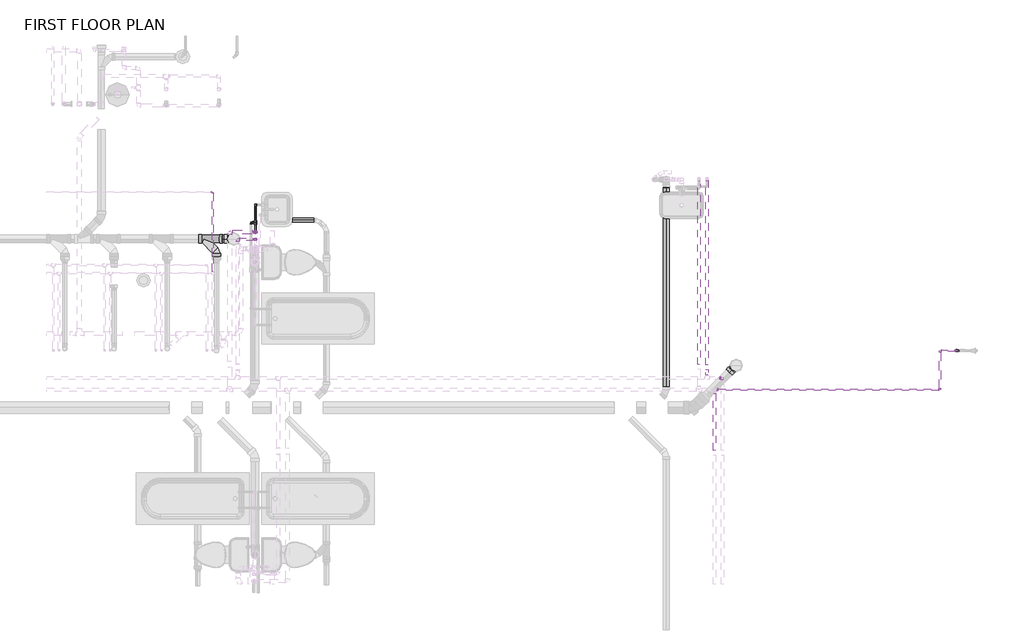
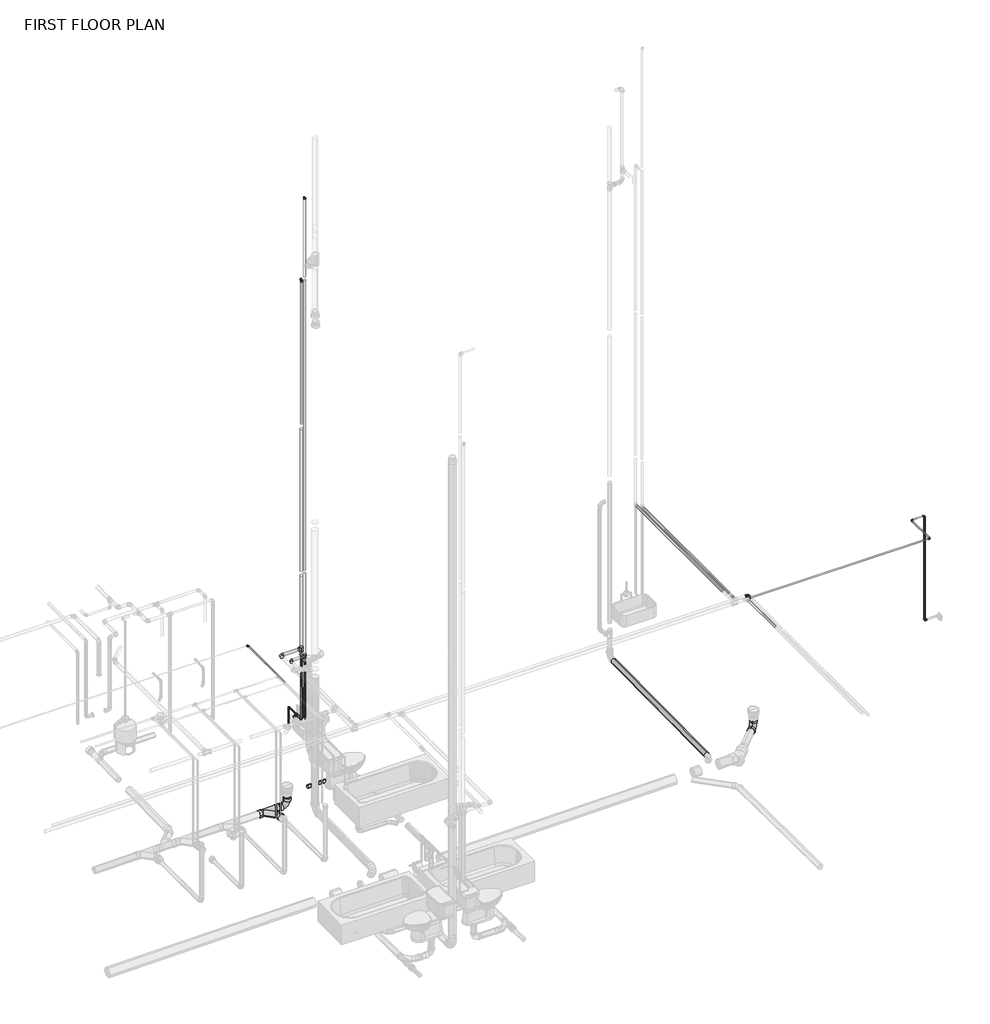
# One storey, part 27 of 29: 30 pipe fittings, 30 pipe segments.
"""IFC4 building model written with IfcOpenShell, lengths in millimetres."""

from ifc_helpers import new_model, si_unit, point, frame, frame_2d, origin, place, context, project, spatial, circle_curve, trimmed, segment, composite_curve, outline, extrude, transform, mapped, element, save
from ifc_brep_helpers import plane_surface, cylinder_surface, advanced_brep
from components import bend_pvc_sch_40_dwv_standard_f85602c0, bend_pvc_sch_40_dwv_standard_6d77aece, pipe_elbow_copper_k_557be1fc, pipe_elbow_copper_k_764eecca, pipe_elbow_copper_k_feaaf02c, pipe_elbow_copper_k_aad62f2d, pipe_elbow_copper_k_aee2f062, pipe_elbow_copper_k_a25a5501, pipe_tee_copper_k_36278b8a, pipe_tee_copper_k_7127fd44, pipe_tee_copper_k_feafe2f1, pipe_transition_copper_k_2e591508, pipe_transition_copper_k_b63fd5dd, pipe_transition_copper_k_6d118978, pipe_transition_copper_k_7e8f21d9, pipe_transition_copper_k_3e141881, pipe_transition_copper_k_f5214087, pipe_transition_copper_k_65f470c7, pipe_transition_copper_k_d17fcfb6, pipe_transition_copper_k_f5fb5327, wye_combination_with_8th_bend_pvc_sch_40_dwv_standard_19f141cc

model = new_model("IFC4")

# Units and contexts
model_context = context("Model", 3, world=origin())
ifc_project = project(units=[si_unit("LENGTHUNIT", "METRE", prefix="MILLI")], contexts=[model_context])

# Site, building, storey
site = spatial("IfcSite", under=ifc_project)
building = spatial("IfcBuilding", under=site)
storey = spatial("IfcBuildingStorey", under=building, Name="FIRST FLOOR PLAN", Elevation=0.0)

# Pipe fittings
placement = place(None, origin())
bend_pvc_sch_40_dwv_standard_shape = bend_pvc_sch_40_dwv_standard_f85602c0(model_context)
element("IfcPipeFitting", 1, ObjectType="Bend - PVC - Sch 40 - DWV : Standard", at=placement, inside=storey, context=model_context, shape_type="MappedRepresentation", body=[
    mapped(bend_pvc_sch_40_dwv_standard_shape, transform((16620.4373657, 8027.5669924, -360.3651965), x_axis=(0.0, -6.575715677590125e-08, -0.9999999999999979), y_axis=(-0.9999999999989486, -1.4502091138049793e-06, 0.0), z_axis=(-1.4502091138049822e-06, 0.9999999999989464, -6.575715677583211e-08))),
])
bend_pvc_sch_40_dwv_standard_2_shape = bend_pvc_sch_40_dwv_standard_6d77aece(model_context)
element("IfcPipeFitting", 2, ObjectType="Bend - PVC - Sch 40 - DWV : Standard", at=placement, inside=storey, context=model_context, shape_type="MappedRepresentation", body=[
    mapped(bend_pvc_sch_40_dwv_standard_2_shape, transform((24102.4347426, 6142.4691044, -312.8912358), x_axis=(0.0, 0.0, -1.0), y_axis=(-0.7071267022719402, -0.7070868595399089, 0.0), z_axis=(-0.7070868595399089, 0.7071267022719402, 0.0))),
])
pipe_elbow_copper_k_shape = pipe_elbow_copper_k_557be1fc(model_context)
element("IfcPipeFitting", 3, ObjectType="Pipe Elbow : Copper- K", at=placement, inside=storey, context=model_context, shape_type="MappedRepresentation", body=[
    mapped(pipe_elbow_copper_k_shape, transform((16682.0146104, 8021.1606631, 2413.0), x_axis=(-1.0, 0.0, 0.0), y_axis=(0.0, -1.0, 0.0), z_axis=(0.0, 0.0, 1.0))),
])
pipe_elbow_copper_k_2_shape = pipe_elbow_copper_k_764eecca(model_context)
element("IfcPipeFitting", 4, ObjectType="Pipe Elbow : Copper- K", at=placement, inside=storey, context=model_context, shape_type="MappedRepresentation", body=[
    mapped(pipe_elbow_copper_k_2_shape, transform((16562.8624243, 8129.4757881, 2490.6882812), x_axis=(-1.0, 0.0, 0.0), y_axis=(0.0, -1.0, 0.0), z_axis=(0.0, 0.0, 1.0))),
])
pipe_elbow_copper_k_3_shape = pipe_elbow_copper_k_feaaf02c(model_context)
element("IfcPipeFitting", 5, ObjectType="Pipe Elbow : Copper- K", at=placement, inside=storey, context=model_context, shape_type="MappedRepresentation", body=[
    mapped(pipe_elbow_copper_k_3_shape, transform((27136.8112434, 5778.2175381, 2490.6882812), x_axis=(1.0, 0.0, 0.0), y_axis=(0.0, 1.0, 0.0), z_axis=(0.0, 0.0, 1.0))),
])
element("IfcPipeFitting", 6, ObjectType="Pipe Elbow : Copper- K", at=placement, inside=storey, context=model_context, shape_type="MappedRepresentation", body=[
    mapped(pipe_elbow_copper_k_3_shape, transform((27373.8613427, 6363.4137881, 467.36875), x_axis=(-1.0, 0.0, 0.0), y_axis=(0.0, 0.0, 1.0), z_axis=(0.0, 1.0, 0.0))),
])
element("IfcPipeFitting", 7, ObjectType="Pipe Elbow : Copper- K", at=placement, inside=storey, context=model_context, shape_type="MappedRepresentation", body=[
    mapped(pipe_elbow_copper_k_3_shape, transform((27136.8112434, 6363.4137881, 2490.6882812), x_axis=(-1.0, 0.0, 0.0), y_axis=(0.0, -1.0, 0.0), z_axis=(0.0, 0.0, 1.0))),
])
element("IfcPipeFitting", 8, ObjectType="Pipe Elbow : Copper- K", at=placement, inside=storey, context=model_context, shape_type="MappedRepresentation", body=[
    mapped(pipe_elbow_copper_k_3_shape, transform((27373.8613427, 6363.4137881, 2490.6882812), x_axis=(0.0, 0.0, 1.0), y_axis=(-1.0, 0.0, 0.0), z_axis=(0.0, -1.0, 0.0))),
])
element("IfcPipeFitting", 9, ObjectType="Pipe Elbow : Copper- K", at=placement, inside=storey, context=model_context, shape_type="MappedRepresentation", body=[
    mapped(pipe_elbow_copper_k_3_shape, transform((16879.2084875, 8271.1092908, 1117.6), x_axis=(-1.0, 0.0, 0.0), y_axis=(0.0, -1.0, 0.0), z_axis=(0.0, 0.0, 1.0))),
])
element("IfcPipeFitting", 10, ObjectType="Pipe Elbow : Copper- K", at=placement, inside=storey, context=model_context, shape_type="MappedRepresentation", body=[
    mapped(pipe_elbow_copper_k_3_shape, transform((16942.7084875, 8021.1606631, 1219.2), x_axis=(0.0, 1.0, 0.0), y_axis=(-0.0006978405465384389, 0.0, 0.9999997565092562), z_axis=(0.9999997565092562, 0.0, 0.0006978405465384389))),
])
pipe_elbow_copper_k_4_shape = pipe_elbow_copper_k_aad62f2d(model_context)
element("IfcPipeFitting", 11, ObjectType="Pipe Elbow : Copper- K", at=placement, inside=storey, context=model_context, shape_type="MappedRepresentation", body=[
    mapped(pipe_elbow_copper_k_4_shape, transform((16941.9084875, 8021.1606631, 11328.4), x_axis=(0.0, 0.0, 1.0), y_axis=(-1.0, 0.0, 0.0), z_axis=(0.0, -1.0, 0.0))),
])
element("IfcPipeFitting", 12, ObjectType="Pipe Elbow : Copper- K", at=placement, inside=storey, context=model_context, shape_type="MappedRepresentation", body=[
    mapped(pipe_elbow_copper_k_4_shape, transform((16306.9084875, 8725.6137881, 2413.0), x_axis=(0.0, 1.0, 0.0), y_axis=(-1.0, 0.0, 0.0), z_axis=(0.0, 0.0, 1.0))),
])
element("IfcPipeFitting", 13, ObjectType="Pipe Elbow : Copper- K", at=placement, inside=storey, context=model_context, shape_type="MappedRepresentation", body=[
    mapped(pipe_elbow_copper_k_4_shape, transform((16945.8834875, 8536.03262, 762.0), x_axis=(0.0, 0.0, -1.0), y_axis=(1.0, 0.0, 0.0), z_axis=(0.0, -1.0, 0.0))),
])
element("IfcPipeFitting", 14, ObjectType="Pipe Elbow : Copper- K", at=placement, inside=storey, context=model_context, shape_type="MappedRepresentation", body=[
    mapped(pipe_elbow_copper_k_4_shape, transform((16945.8834875, 8536.03262, 1117.6), x_axis=(0.0, 0.0, 1.0), y_axis=(0.0, -1.0, 0.0), z_axis=(1.0, 0.0, 0.0))),
])
pipe_elbow_copper_k_5_shape = pipe_elbow_copper_k_aee2f062(model_context)
element("IfcPipeFitting", 15, ObjectType="Pipe Elbow : Copper- K", at=placement, inside=storey, context=model_context, shape_type="MappedRepresentation", body=[
    mapped(pipe_elbow_copper_k_5_shape, transform((23897.1913377, 5956.0175381, 2413.0), x_axis=(0.0, 1.0, 0.0), y_axis=(-1.0, 0.0, 0.0), z_axis=(0.0, 0.0, 1.0))),
])
pipe_elbow_copper_k_6_shape = pipe_elbow_copper_k_a25a5501(model_context)
element("IfcPipeFitting", 16, ObjectType="Pipe Elbow : Copper- K", at=placement, inside=storey, context=model_context, shape_type="MappedRepresentation", body=[
    mapped(pipe_elbow_copper_k_6_shape, transform((16945.8834875, 8129.4757881, 9652.0), x_axis=(0.0, 0.0, 1.0), y_axis=(0.0, 1.0, 0.0), z_axis=(-1.0, 0.0, 0.0))),
])
element("IfcPipeFitting", 17, ObjectType="Pipe Elbow : Copper- K", at=placement, inside=storey, context=model_context, shape_type="MappedRepresentation", body=[
    mapped(pipe_elbow_copper_k_6_shape, transform((16945.8834875, 8129.4757881, 1117.6), x_axis=(0.0, -1.0, 0.0), y_axis=(-0.0030203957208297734, 0.0, 0.9999954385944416), z_axis=(-0.9999954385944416, 0.0, -0.0030203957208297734))),
])
pipe_tee_copper_k_shape = pipe_tee_copper_k_36278b8a(model_context)
element("IfcPipeFitting", 18, ObjectType="Pipe Tee : Copper- K", at=placement, inside=storey, context=model_context, shape_type="MappedRepresentation", body=[
    mapped(pipe_tee_copper_k_shape, transform((16941.9084875, 8129.4757881, 2490.6882812), x_axis=(0.0, 0.0, -1.0), y_axis=(1.0, 0.0, 0.0), z_axis=(0.0, -1.0, 0.0))),
])
pipe_tee_copper_k_2_shape = pipe_tee_copper_k_7127fd44(model_context)
element("IfcPipeFitting", 19, ObjectType="Pipe Tee : Copper- K", at=placement, inside=storey, context=model_context, shape_type="MappedRepresentation", body=[
    mapped(pipe_tee_copper_k_2_shape, transform((16941.9084875, 8021.1606631, 2413.0), x_axis=(0.0, 0.0, -1.0), y_axis=(1.0, 0.0, 0.0), z_axis=(0.0, -1.0, 0.0))),
])
pipe_tee_copper_k_3_shape = pipe_tee_copper_k_feafe2f1(model_context)
element("IfcPipeFitting", 20, ObjectType="Pipe Tee : Copper- K", at=placement, inside=storey, context=model_context, shape_type="MappedRepresentation", body=[
    mapped(pipe_tee_copper_k_3_shape, transform((16945.8834875, 8271.1092908, 1117.6), x_axis=(0.0, -1.0, 0.0), y_axis=(1.0, 0.0, 0.0), z_axis=(0.0, 0.0, 1.0))),
])
pipe_transition_copper_k_shape = pipe_transition_copper_k_2e591508(model_context)
element("IfcPipeFitting", 21, ObjectType="Pipe Transition : Copper- K", at=placement, inside=storey, context=model_context, shape_type="MappedRepresentation", body=[
    mapped(pipe_transition_copper_k_shape, transform((23820.9016516, 5778.2175381, 2490.6882812), x_axis=(1.0, 0.0, 0.0), y_axis=(0.0, 1.0, 0.0), z_axis=(0.0, 0.0, 1.0))),
])
pipe_transition_copper_k_2_shape = pipe_transition_copper_k_b63fd5dd(model_context)
element("IfcPipeFitting", 22, ObjectType="Pipe Transition : Copper- K", at=placement, inside=storey, context=model_context, shape_type="MappedRepresentation", body=[
    mapped(pipe_transition_copper_k_2_shape, transform((16945.8834875, 8301.2717908, 1117.6), x_axis=(0.0, 1.0, 0.0), y_axis=(-1.0, 0.0, 0.0), z_axis=(0.0, 0.0, 1.0))),
])
pipe_transition_copper_k_3_shape = pipe_transition_copper_k_6d118978(model_context)
element("IfcPipeFitting", 23, ObjectType="Pipe Transition : Copper- K", at=placement, inside=storey, context=model_context, shape_type="MappedRepresentation", body=[
    mapped(pipe_transition_copper_k_3_shape, transform((16941.9084875, 8021.1606631, 11300.61875), x_axis=(0.0, 0.0, 1.0), y_axis=(0.0, -1.0, 0.0), z_axis=(1.0, 0.0, 0.0))),
])
pipe_transition_copper_k_4_shape = pipe_transition_copper_k_7e8f21d9(model_context)
element("IfcPipeFitting", 24, ObjectType="Pipe Transition : Copper- K", at=placement, inside=storey, context=model_context, shape_type="MappedRepresentation", body=[
    mapped(pipe_transition_copper_k_4_shape, transform((16942.6940858, 8021.1606631, 1239.837495), x_axis=(-0.0006978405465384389, 0.0, 0.9999997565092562), y_axis=(-0.9999997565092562, 0.0, -0.0006978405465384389), z_axis=(0.0, -1.0, 0.0))),
])
pipe_transition_copper_k_5_shape = pipe_transition_copper_k_3e141881(model_context)
element("IfcPipeFitting", 25, ObjectType="Pipe Transition : Copper- K", at=placement, inside=storey, context=model_context, shape_type="MappedRepresentation", body=[
    mapped(pipe_transition_copper_k_5_shape, transform((16945.8834875, 8129.4757881, 9619.45625), x_axis=(0.0, 0.0, 1.0), y_axis=(1.0, 0.0, 0.0), z_axis=(0.0, 1.0, 0.0))),
])
pipe_transition_copper_k_6_shape = pipe_transition_copper_k_f5214087(model_context)
element("IfcPipeFitting", 26, ObjectType="Pipe Transition : Copper- K", at=placement, inside=storey, context=model_context, shape_type="MappedRepresentation", body=[
    mapped(pipe_transition_copper_k_6_shape, transform((16899.8459875, 8271.1092908, 1117.6), x_axis=(1.0, 0.0, 0.0), y_axis=(0.0, 1.0, 0.0), z_axis=(0.0, 0.0, 1.0))),
])
pipe_transition_copper_k_7_shape = pipe_transition_copper_k_65f470c7(model_context)
element("IfcPipeFitting", 27, ObjectType="Pipe Transition : Copper- K", at=placement, inside=storey, context=model_context, shape_type="MappedRepresentation", body=[
    mapped(pipe_transition_copper_k_7_shape, transform((16941.950737, 8021.1606631, 2305.0501626), x_axis=(-0.0006978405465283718, 0.0, 0.9999997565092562), y_axis=(-0.9999997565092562, 0.0, -0.0006978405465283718), z_axis=(0.0, -1.0, 0.0))),
])
pipe_transition_copper_k_8_shape = pipe_transition_copper_k_d17fcfb6(model_context)
element("IfcPipeFitting", 28, ObjectType="Pipe Transition : Copper- K", at=placement, inside=storey, context=model_context, shape_type="MappedRepresentation", body=[
    mapped(pipe_transition_copper_k_8_shape, transform((16942.1006108, 8129.4757881, 2370.0383422), x_axis=(-0.0030203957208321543, 0.0, 0.9999954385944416), y_axis=(0.9999954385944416, 0.0, 0.0030203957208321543), z_axis=(0.0, 1.0, 0.0))),
])
pipe_transition_copper_k_9_shape = pipe_transition_copper_k_f5fb5327(model_context)
element("IfcPipeFitting", 29, ObjectType="Pipe Transition : Copper- K", at=placement, inside=storey, context=model_context, shape_type="MappedRepresentation", body=[
    mapped(pipe_transition_copper_k_9_shape, transform((23859.8850877, 5956.0175381, 2413.0), x_axis=(1.0, 0.0, 0.0), y_axis=(0.0, 1.0, 0.0), z_axis=(0.0, 0.0, 1.0))),
])
wye_combination_with_8th_bend_pvc_sch_40_dwv_standard_shape = wye_combination_with_8th_bend_pvc_sch_40_dwv_standard_19f141cc(model_context)
element("IfcPipeFitting", 30, ObjectType="Wye Combination with 8th Bend - PVC - Sch 40 - DWV : Standard", at=placement, inside=storey, context=model_context, shape_type="MappedRepresentation", body=[
    mapped(wye_combination_with_8th_bend_pvc_sch_40_dwv_standard_shape, transform((16365.3702331, 8027.5666223, -363.0221458), x_axis=(0.9999457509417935, 1.4508153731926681e-06, 0.01041610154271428), y_axis=(4.865045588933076e-06, 0.9999998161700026, -0.0006063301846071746), z_axis=(-0.010416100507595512, 0.0006063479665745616, 0.99994556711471))),
])

# Pipe segments
element("IfcPipeSegment", 31, ObjectType="Copper", at=placement, inside=storey, context=model_context, shape_type="SweptSolid", body=[
    extrude(outline(composite_curve([segment(trimmed(circle_curve(frame_2d((8021.1606631, 2413.0)), 20.6375), [point((8000.5231631, 2413.0))], [point((8021.1606631, 2433.6375))], False, "CARTESIAN"), True, "CONTINUOUS"), segment(trimmed(circle_curve(frame_2d((8021.1606631, 2413.0)), 20.6375), [point((8021.1606631, 2433.6375))], [point((8041.7981631, 2413.0))], False, "CARTESIAN"), True, "CONTINUOUS"), segment(trimmed(circle_curve(frame_2d((8021.1606631, 2413.0)), 20.6375), [point((8041.7981631, 2413.0))], [point((8021.1606631, 2392.3625))], False, "CARTESIAN"), True, "CONTINUOUS"), segment(trimmed(circle_curve(frame_2d((8021.1606631, 2413.0)), 20.6375), [point((8021.1606631, 2392.3625))], [point((8000.5231631, 2413.0))], False, "CARTESIAN"), True, "CONTINUOUS")], self_intersect=False)), frame((16712.1771104, 0.0, 0.0), z_axis=(1.0, 0.0, 0.0), x_axis=(0.0, 1.0, 0.0)), (0.0, 0.0, 1.0), 193.218877),
])
element("IfcPipeSegment", 32, ObjectType="Copper", at=placement, inside=storey, context=model_context, shape_type="SweptSolid", body=[
    extrude(outline(composite_curve([segment(trimmed(circle_curve(frame_2d((8129.4757881, 2490.6882812)), 26.9875), [point((8102.4882881, 2490.6882812))], [point((8129.4757881, 2517.6757812))], False, "CARTESIAN"), True, "CONTINUOUS"), segment(trimmed(circle_curve(frame_2d((8129.4757881, 2490.6882812)), 26.9875), [point((8129.4757881, 2517.6757812))], [point((8156.4632881, 2490.6882812))], False, "CARTESIAN"), True, "CONTINUOUS"), segment(trimmed(circle_curve(frame_2d((8129.4757881, 2490.6882812)), 26.9875), [point((8156.4632881, 2490.6882812))], [point((8129.4757881, 2463.7007812))], False, "CARTESIAN"), True, "CONTINUOUS"), segment(trimmed(circle_curve(frame_2d((8129.4757881, 2490.6882812)), 26.9875), [point((8129.4757881, 2463.7007812))], [point((8102.4882881, 2490.6882812))], False, "CARTESIAN"), True, "CONTINUOUS")], self_intersect=False)), frame((16599.3749243, 0.0, 0.0), z_axis=(1.0, 0.0, 0.0), x_axis=(0.0, 1.0, 0.0)), (0.0, 0.0, 1.0), 299.6710632),
])
element("IfcPipeSegment", 33, ObjectType="Copper", at=placement, inside=storey, context=model_context, shape_type="SweptSolid", body=[
    extrude(outline(composite_curve([segment(trimmed(circle_curve(frame_2d((16941.9084875, 8021.1606631)), 20.6375), [point((16921.2709875, 8021.1606631))], [point((16941.9084875, 8041.7981631))], False, "CARTESIAN"), True, "CONTINUOUS"), segment(trimmed(circle_curve(frame_2d((16941.9084875, 8021.1606631)), 20.6375), [point((16941.9084875, 8041.7981631))], [point((16962.5459875, 8021.1606631))], False, "CARTESIAN"), True, "CONTINUOUS"), segment(trimmed(circle_curve(frame_2d((16941.9084875, 8021.1606631)), 20.6375), [point((16962.5459875, 8021.1606631))], [point((16941.9084875, 8000.5231631))], False, "CARTESIAN"), True, "CONTINUOUS"), segment(trimmed(circle_curve(frame_2d((16941.9084875, 8021.1606631)), 20.6375), [point((16941.9084875, 8000.5231631))], [point((16921.2709875, 8021.1606631))], False, "CARTESIAN"), True, "CONTINUOUS")], self_intersect=False)), frame((0.0, 0.0, 9790.1125), z_axis=(0.0, 0.0, 1.0), x_axis=(1.0, 0.0, 0.0)), (0.0, 0.0, 1.0), 1510.50625),
])
element("IfcPipeSegment", 34, ObjectType="Copper", at=placement, inside=storey, context=model_context, shape_type="SweptSolid", body=[
    extrude(outline(composite_curve([segment(trimmed(circle_curve(frame_2d((5778.2175381, 2490.6882812)), 11.1125), [point((5767.1050381, 2490.6882812))], [point((5778.2175381, 2501.8007812))], False, "CARTESIAN"), True, "CONTINUOUS"), segment(trimmed(circle_curve(frame_2d((5778.2175381, 2490.6882812)), 11.1125), [point((5778.2175381, 2501.8007812))], [point((5789.3300381, 2490.6882812))], False, "CARTESIAN"), True, "CONTINUOUS"), segment(trimmed(circle_curve(frame_2d((5778.2175381, 2490.6882812)), 11.1125), [point((5789.3300381, 2490.6882812))], [point((5778.2175381, 2479.5757812))], False, "CARTESIAN"), True, "CONTINUOUS"), segment(trimmed(circle_curve(frame_2d((5778.2175381, 2490.6882812)), 11.1125), [point((5778.2175381, 2479.5757812))], [point((5767.1050381, 2490.6882812))], False, "CARTESIAN"), True, "CONTINUOUS")], self_intersect=False)), frame((23834.3954016, 0.0, 0.0), z_axis=(1.0, 0.0, 0.0), x_axis=(0.0, 1.0, 0.0)), (0.0, 0.0, 1.0), 3281.7783418),
])
element("IfcPipeSegment", 35, ObjectType="Copper", at=placement, inside=storey, context=model_context, shape_type="SweptSolid", body=[
    extrude(outline(composite_curve([segment(trimmed(circle_curve(frame_2d((2490.6882812, 27136.8112434)), 11.1125), [point((2490.6882812, 27147.9237434))], [point((2501.8007812, 27136.8112434))], False, "CARTESIAN"), True, "CONTINUOUS"), segment(trimmed(circle_curve(frame_2d((2490.6882812, 27136.8112434)), 11.1125), [point((2501.8007812, 27136.8112434))], [point((2490.6882812, 27125.6987434))], False, "CARTESIAN"), True, "CONTINUOUS"), segment(trimmed(circle_curve(frame_2d((2490.6882812, 27136.8112434)), 11.1125), [point((2490.6882812, 27125.6987434))], [point((2479.5757812, 27136.8112434))], False, "CARTESIAN"), True, "CONTINUOUS"), segment(trimmed(circle_curve(frame_2d((2490.6882812, 27136.8112434)), 11.1125), [point((2479.5757812, 27136.8112434))], [point((2490.6882812, 27147.9237434))], False, "CARTESIAN"), True, "CONTINUOUS")], self_intersect=False)), frame((0.0, 5798.8550381, 0.0), z_axis=(0.0, 1.0, 0.0), x_axis=(0.0, 0.0, 1.0)), (0.0, 0.0, 1.0), 543.92125),
])
element("IfcPipeSegment", 36, ObjectType="Copper", at=placement, inside=storey, context=model_context, shape_type="SweptSolid", body=[
    extrude(outline(composite_curve([segment(trimmed(circle_curve(frame_2d((6363.4137881, 2490.6882812)), 11.1125), [point((6352.3012881, 2490.6882812))], [point((6363.4137881, 2501.8007812))], False, "CARTESIAN"), True, "CONTINUOUS"), segment(trimmed(circle_curve(frame_2d((6363.4137881, 2490.6882812)), 11.1125), [point((6363.4137881, 2501.8007812))], [point((6374.5262881, 2490.6882812))], False, "CARTESIAN"), True, "CONTINUOUS"), segment(trimmed(circle_curve(frame_2d((6363.4137881, 2490.6882812)), 11.1125), [point((6374.5262881, 2490.6882812))], [point((6363.4137881, 2479.5757812))], False, "CARTESIAN"), True, "CONTINUOUS"), segment(trimmed(circle_curve(frame_2d((6363.4137881, 2490.6882812)), 11.1125), [point((6363.4137881, 2479.5757812))], [point((6352.3012881, 2490.6882812))], False, "CARTESIAN"), True, "CONTINUOUS")], self_intersect=False)), frame((27157.4487434, 0.0, 0.0), z_axis=(1.0, 0.0, 0.0), x_axis=(0.0, 1.0, 0.0)), (0.0, 0.0, 1.0), 195.7750993),
])
element("IfcPipeSegment", 37, ObjectType="Copper", at=placement, inside=storey, context=model_context, shape_type="SweptSolid", body=[
    extrude(outline(composite_curve([segment(trimmed(circle_curve(frame_2d((6363.4137881, 467.36875)), 11.1125), [point((6374.5262881, 467.36875))], [point((6363.4137881, 456.25625))], False, "CARTESIAN"), True, "CONTINUOUS"), segment(trimmed(circle_curve(frame_2d((6363.4137881, 467.36875)), 11.1125), [point((6363.4137881, 456.25625))], [point((6352.3012881, 467.36875))], False, "CARTESIAN"), True, "CONTINUOUS"), segment(trimmed(circle_curve(frame_2d((6363.4137881, 467.36875)), 11.1125), [point((6352.3012881, 467.36875))], [point((6363.4137881, 478.48125))], False, "CARTESIAN"), True, "CONTINUOUS"), segment(trimmed(circle_curve(frame_2d((6363.4137881, 467.36875)), 11.1125), [point((6363.4137881, 478.48125))], [point((6374.5262881, 467.36875))], False, "CARTESIAN"), True, "CONTINUOUS")], self_intersect=False)), frame((27394.4988427, 0.0, 0.0), z_axis=(1.0, 0.0, 0.0), x_axis=(0.0, 1.0, 0.0)), (0.0, 0.0, 1.0), 25.3998882),
])
element("IfcPipeSegment", 38, ObjectType="Copper", at=placement, inside=storey, context=model_context, shape_type="SweptSolid", body=[
    extrude(outline(composite_curve([segment(trimmed(circle_curve(frame_2d((27373.8613427, 6363.4137881)), 11.1125), [point((27362.7488427, 6363.4137881))], [point((27373.8613427, 6374.5262881))], False, "CARTESIAN"), True, "CONTINUOUS"), segment(trimmed(circle_curve(frame_2d((27373.8613427, 6363.4137881)), 11.1125), [point((27373.8613427, 6374.5262881))], [point((27384.9738427, 6363.4137881))], False, "CARTESIAN"), True, "CONTINUOUS"), segment(trimmed(circle_curve(frame_2d((27373.8613427, 6363.4137881)), 11.1125), [point((27384.9738427, 6363.4137881))], [point((27373.8613427, 6352.3012881))], False, "CARTESIAN"), True, "CONTINUOUS"), segment(trimmed(circle_curve(frame_2d((27373.8613427, 6363.4137881)), 11.1125), [point((27373.8613427, 6352.3012881))], [point((27362.7488427, 6363.4137881))], False, "CARTESIAN"), True, "CONTINUOUS")], self_intersect=False)), frame((0.0, 0.0, 488.00625), z_axis=(0.0, 0.0, 1.0), x_axis=(1.0, 0.0, 0.0)), (0.0, 0.0, 1.0), 1982.0445312),
])
element("IfcPipeSegment", 39, ObjectType="Copper", at=placement, inside=storey, context=model_context, shape_type="SweptSolid", body=[
    extrude(outline(composite_curve([segment(trimmed(circle_curve(frame_2d((2413.0, 16306.9084875)), 7.9375), [point((2413.0, 16298.9709875))], [point((2405.0625, 16306.9084875))], False, "CARTESIAN"), True, "CONTINUOUS"), segment(trimmed(circle_curve(frame_2d((2413.0, 16306.9084875)), 7.9375), [point((2405.0625, 16306.9084875))], [point((2413.0, 16314.8459875))], False, "CARTESIAN"), True, "CONTINUOUS"), segment(trimmed(circle_curve(frame_2d((2413.0, 16306.9084875)), 7.9375), [point((2413.0, 16314.8459875))], [point((2420.9375, 16306.9084875))], False, "CARTESIAN"), True, "CONTINUOUS"), segment(trimmed(circle_curve(frame_2d((2413.0, 16306.9084875)), 7.9375), [point((2420.9375, 16306.9084875))], [point((2413.0, 16298.9709875))], False, "CARTESIAN"), True, "CONTINUOUS")], self_intersect=False)), frame((0.0, 7542.9624538, 0.0), z_axis=(0.0, 1.0, 0.0), x_axis=(0.0, 0.0, 1.0)), (0.0, 0.0, 1.0), 1165.1888342),
])
element("IfcPipeSegment", 40, ObjectType="Copper", at=placement, inside=storey, context=model_context, shape_type="SweptSolid", body=[
    extrude(outline(composite_curve([segment(trimmed(circle_curve(frame_2d((16945.8834875, 8129.4757881)), 17.4625), [point((16928.4209875, 8129.4757881))], [point((16945.8834875, 8146.9382881))], False, "CARTESIAN"), True, "CONTINUOUS"), segment(trimmed(circle_curve(frame_2d((16945.8834875, 8129.4757881)), 17.4625), [point((16945.8834875, 8146.9382881))], [point((16963.3459875, 8129.4757881))], False, "CARTESIAN"), True, "CONTINUOUS"), segment(trimmed(circle_curve(frame_2d((16945.8834875, 8129.4757881)), 17.4625), [point((16963.3459875, 8129.4757881))], [point((16945.8834875, 8112.0132881))], False, "CARTESIAN"), True, "CONTINUOUS"), segment(trimmed(circle_curve(frame_2d((16945.8834875, 8129.4757881)), 17.4625), [point((16945.8834875, 8112.0132881))], [point((16928.4209875, 8129.4757881))], False, "CARTESIAN"), True, "CONTINUOUS")], self_intersect=False)), frame((0.0, 0.0, 6863.55625), z_axis=(0.0, 0.0, 1.0), x_axis=(1.0, 0.0, 0.0)), (0.0, 0.0, 1.0), 2755.9),
])
element("IfcPipeSegment", 41, ObjectType="Copper", at=placement, inside=storey, context=model_context, shape_type="SweptSolid", body=[
    extrude(outline(composite_curve([segment(trimmed(circle_curve(frame_2d((1117.6, 16945.8834875)), 7.9375), [point((1117.6, 16953.8209875))], [point((1125.5375, 16945.8834875))], False, "CARTESIAN"), True, "CONTINUOUS"), segment(trimmed(circle_curve(frame_2d((1117.6, 16945.8834875)), 7.9375), [point((1125.5375, 16945.8834875))], [point((1117.6, 16937.9459875))], False, "CARTESIAN"), True, "CONTINUOUS"), segment(trimmed(circle_curve(frame_2d((1117.6, 16945.8834875)), 7.9375), [point((1117.6, 16937.9459875))], [point((1109.6625, 16945.8834875))], False, "CARTESIAN"), True, "CONTINUOUS"), segment(trimmed(circle_curve(frame_2d((1117.6, 16945.8834875)), 7.9375), [point((1109.6625, 16945.8834875))], [point((1117.6, 16953.8209875))], False, "CARTESIAN"), True, "CONTINUOUS")], self_intersect=False)), frame((0.0, 8308.4155408, 0.0), z_axis=(0.0, 1.0, 0.0), x_axis=(0.0, 0.0, 1.0)), (0.0, 0.0, 1.0), 210.1545792),
])
element("IfcPipeSegment", 42, ObjectType="Copper", at=placement, inside=storey, context=model_context, shape_type="SweptSolid", body=[
    extrude(outline(composite_curve([segment(trimmed(circle_curve(frame_2d((16945.8834875, 8536.03262)), 7.9375), [point((16953.8209875, 8536.03262))], [point((16945.8834875, 8528.09512))], False, "CARTESIAN"), True, "CONTINUOUS"), segment(trimmed(circle_curve(frame_2d((16945.8834875, 8536.03262)), 7.9375), [point((16945.8834875, 8528.09512))], [point((16937.9459875, 8536.03262))], False, "CARTESIAN"), True, "CONTINUOUS"), segment(trimmed(circle_curve(frame_2d((16945.8834875, 8536.03262)), 7.9375), [point((16937.9459875, 8536.03262))], [point((16945.8834875, 8543.97012))], False, "CARTESIAN"), True, "CONTINUOUS"), segment(trimmed(circle_curve(frame_2d((16945.8834875, 8536.03262)), 7.9375), [point((16945.8834875, 8543.97012))], [point((16953.8209875, 8536.03262))], False, "CARTESIAN"), True, "CONTINUOUS")], self_intersect=False)), frame((0.0, 0.0, 779.4625), z_axis=(0.0, 0.0, 1.0), x_axis=(1.0, 0.0, 0.0)), (0.0, 0.0, 1.0), 320.675),
])
element("IfcPipeSegment", 43, ObjectType="Copper", at=placement, inside=storey, context=model_context, shape_type="SweptSolid", body=[
    extrude(outline(composite_curve([segment(trimmed(circle_curve(frame_2d((8271.1092908, 1117.6)), 14.2875), [point((8285.3967908, 1117.6))], [point((8271.1092908, 1103.3125))], False, "CARTESIAN"), True, "CONTINUOUS"), segment(trimmed(circle_curve(frame_2d((8271.1092908, 1117.6)), 14.2875), [point((8271.1092908, 1103.3125))], [point((8256.8217908, 1117.6))], False, "CARTESIAN"), True, "CONTINUOUS"), segment(trimmed(circle_curve(frame_2d((8271.1092908, 1117.6)), 14.2875), [point((8256.8217908, 1117.6))], [point((8271.1092908, 1131.8875))], False, "CARTESIAN"), True, "CONTINUOUS"), segment(trimmed(circle_curve(frame_2d((8271.1092908, 1117.6)), 14.2875), [point((8271.1092908, 1131.8875))], [point((8285.3967908, 1117.6))], False, "CARTESIAN"), True, "CONTINUOUS")], self_intersect=False)), frame((16903.4178625, 0.0, 0.0), z_axis=(1.0, 0.0, 0.0), x_axis=(0.0, 1.0, 0.0)), (0.0, 0.0, 1.0), 12.303125),
])
element("IfcPipeSegment", 44, ObjectType="Copper", at=placement, inside=storey, context=model_context, shape_type="SweptSolid", body=[
    extrude(outline(composite_curve([segment(trimmed(circle_curve(frame_2d((1117.6, 16945.8834875)), 14.2875), [point((1117.6, 16931.5959875))], [point((1103.3125, 16945.8834875))], False, "CARTESIAN"), True, "CONTINUOUS"), segment(trimmed(circle_curve(frame_2d((1117.6, 16945.8834875)), 14.2875), [point((1103.3125, 16945.8834875))], [point((1117.6, 16960.1709875))], False, "CARTESIAN"), True, "CONTINUOUS"), segment(trimmed(circle_curve(frame_2d((1117.6, 16945.8834875)), 14.2875), [point((1117.6, 16960.1709875))], [point((1131.8875, 16945.8834875))], False, "CARTESIAN"), True, "CONTINUOUS"), segment(trimmed(circle_curve(frame_2d((1117.6, 16945.8834875)), 14.2875), [point((1131.8875, 16945.8834875))], [point((1117.6, 16931.5959875))], False, "CARTESIAN"), True, "CONTINUOUS")], self_intersect=False)), frame((0.0, 8153.2882881, 0.0), z_axis=(0.0, 1.0, 0.0), x_axis=(0.0, 0.0, 1.0)), (0.0, 0.0, 1.0), 87.6585027),
])
element("IfcPipeSegment", 45, ObjectType="Copper", at=placement, inside=storey, context=model_context, shape_type="SweptSolid", body=[
    extrude(outline(composite_curve([segment(trimmed(circle_curve(frame_2d((0.0, 14.2875)), 14.2875), [point((-14.2875, 14.2875))], [point((0.0, 28.575))], False, "CARTESIAN"), True, "CONTINUOUS"), segment(trimmed(circle_curve(frame_2d((0.0, 14.2875)), 14.2875), [point((0.0, 28.575))], [point((14.2875, 14.2875))], False, "CARTESIAN"), True, "CONTINUOUS"), segment(trimmed(circle_curve(frame_2d((0.0, 14.2875)), 14.2875), [point((14.2875, 14.2875))], [point((0.0, 0.0))], False, "CARTESIAN"), True, "CONTINUOUS"), segment(trimmed(circle_curve(frame_2d((0.0, 14.2875)), 14.2875), [point((0.0, 0.0))], [point((-14.2875, 14.2875))], False, "CARTESIAN"), True, "CONTINUOUS")], self_intersect=False)), frame((16942.6915932, 8006.8731631, 1243.4093691), z_axis=(-0.0006978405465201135, 0.0, 0.9999997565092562), x_axis=(0.9999997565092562, 0.0, 0.0006978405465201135)), (0.0, 0.0, 1.0), 1061.641052),
])
element("IfcPipeSegment", 46, ObjectType="Copper", at=placement, inside=storey, context=model_context, shape_type="SweptSolid", body=[
    extrude(outline(composite_curve([segment(trimmed(circle_curve(frame_2d((0.0, 14.2875)), 14.2875), [point((0.0, 28.575))], [point((14.2875, 14.2875))], False, "CARTESIAN"), True, "CONTINUOUS"), segment(trimmed(circle_curve(frame_2d((0.0, 14.2875)), 14.2875), [point((14.2875, 14.2875))], [point((0.0, 0.0))], False, "CARTESIAN"), True, "CONTINUOUS"), segment(trimmed(circle_curve(frame_2d((0.0, 14.2875)), 14.2875), [point((0.0, 0.0))], [point((-14.2875, 14.2875))], False, "CARTESIAN"), True, "CONTINUOUS"), segment(trimmed(circle_curve(frame_2d((0.0, 14.2875)), 14.2875), [point((-14.2875, 14.2875))], [point((0.0, 28.575))], False, "CARTESIAN"), True, "CONTINUOUS")], self_intersect=False)), frame((16945.8115643, 8115.1882881, 1141.4123914), z_axis=(-0.0030203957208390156, 0.0, 0.9999954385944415), x_axis=(0.9999954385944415, 0.0, 0.0030203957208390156)), (0.0, 0.0, 1.0), 1228.6315551),
])
element("IfcPipeSegment", 47, ObjectType="Copper", at=placement, inside=storey, context=model_context, shape_type="SweptSolid", body=[
    extrude(outline(composite_curve([segment(trimmed(circle_curve(frame_2d((0.0, -20.6375)), 20.6375), [point((-20.6375, -20.6375))], [point((0.0, 0.0))], False, "CARTESIAN"), True, "CONTINUOUS"), segment(trimmed(circle_curve(frame_2d((0.0, -20.6375)), 20.6375), [point((0.0, 0.0))], [point((20.6374999, -20.6375))], False, "CARTESIAN"), True, "CONTINUOUS"), segment(trimmed(circle_curve(frame_2d((0.0, -20.6375)), 20.6375), [point((20.6374999, -20.6375))], [point((0.0, -41.275))], False, "CARTESIAN"), True, "CONTINUOUS"), segment(trimmed(circle_curve(frame_2d((0.0, -20.6375)), 20.6375), [point((0.0, -41.275))], [point((-20.6375, -20.6375))], False, "CARTESIAN"), True, "CONTINUOUS")], self_intersect=False)), frame((16941.904887, 8000.5231631, 2310.2095068), z_axis=(5.4323024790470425e-05, 0.0, 0.9999999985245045), x_axis=(-0.9999999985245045, 0.0, 5.4323024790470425e-05)), (0.0, 0.0, 1.0), 66.2779933),
])
element("IfcPipeSegment", 48, ObjectType="Copper", at=placement, inside=storey, context=model_context, shape_type="SweptSolid", body=[
    extrude(outline(composite_curve([segment(trimmed(circle_curve(frame_2d((0.0, -26.9875)), 26.9875), [point((-26.9875, -26.9875))], [point((0.0, 0.0))], False, "CARTESIAN"), True, "CONTINUOUS"), segment(trimmed(circle_curve(frame_2d((0.0, -26.9875)), 26.9875), [point((0.0, 0.0))], [point((26.9875, -26.9875))], False, "CARTESIAN"), True, "CONTINUOUS"), segment(trimmed(circle_curve(frame_2d((0.0, -26.9875)), 26.9875), [point((26.9875, -26.9875))], [point((0.0, -53.975))], False, "CARTESIAN"), True, "CONTINUOUS"), segment(trimmed(circle_curve(frame_2d((0.0, -26.9875)), 26.9875), [point((0.0, -53.975))], [point((-26.9875, -26.9875))], False, "CARTESIAN"), True, "CONTINUOUS")], self_intersect=False)), frame((16941.8881092, 8102.4882881, 2376.7846061), z_axis=(0.0002868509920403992, 0.0, 0.9999999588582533), x_axis=(-0.9999999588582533, 0.0, 0.0002868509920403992)), (0.0, 0.0, 1.0), 71.041178),
])
element("IfcPipeSegment", 49, ObjectType="Copper", at=placement, inside=storey, context=model_context, shape_type="SweptSolid", body=[
    extrude(outline(composite_curve([segment(trimmed(circle_curve(frame_2d((16941.9084875, 8021.1606631)), 20.6375), [point((16921.2709875, 8021.1606631))], [point((16941.9084875, 8041.7981631))], False, "CARTESIAN"), True, "CONTINUOUS"), segment(trimmed(circle_curve(frame_2d((16941.9084875, 8021.1606631)), 20.6375), [point((16941.9084875, 8041.7981631))], [point((16962.5459875, 8021.1606631))], False, "CARTESIAN"), True, "CONTINUOUS"), segment(trimmed(circle_curve(frame_2d((16941.9084875, 8021.1606631)), 20.6375), [point((16962.5459875, 8021.1606631))], [point((16941.9084875, 8000.5231631))], False, "CARTESIAN"), True, "CONTINUOUS"), segment(trimmed(circle_curve(frame_2d((16941.9084875, 8021.1606631)), 20.6375), [point((16941.9084875, 8000.5231631))], [point((16921.2709875, 8021.1606631))], False, "CARTESIAN"), True, "CONTINUOUS")], self_intersect=False)), frame((0.0, 0.0, 2449.5125), z_axis=(0.0, 0.0, 1.0), x_axis=(1.0, 0.0, 0.0)), (0.0, 0.0, 1.0), 1577.975),
])
element("IfcPipeSegment", 50, ObjectType="Copper", at=placement, inside=storey, context=model_context, shape_type="SweptSolid", body=[
    extrude(outline(composite_curve([segment(trimmed(circle_curve(frame_2d((16945.8834875, 8129.4757881)), 26.9875), [point((16972.8709875, 8129.4757881))], [point((16945.8834875, 8102.4882881))], False, "CARTESIAN"), True, "CONTINUOUS"), segment(trimmed(circle_curve(frame_2d((16945.8834875, 8129.4757881)), 26.9875), [point((16945.8834875, 8102.4882881))], [point((16918.8959875, 8129.4757881))], False, "CARTESIAN"), True, "CONTINUOUS"), segment(trimmed(circle_curve(frame_2d((16945.8834875, 8129.4757881)), 26.9875), [point((16918.8959875, 8129.4757881))], [point((16945.8834875, 8156.4632881))], False, "CARTESIAN"), True, "CONTINUOUS"), segment(trimmed(circle_curve(frame_2d((16945.8834875, 8129.4757881)), 26.9875), [point((16945.8834875, 8156.4632881))], [point((16972.8709875, 8129.4757881))], False, "CARTESIAN"), True, "CONTINUOUS")], self_intersect=False)), frame((0.0, 0.0, 2533.5507812), z_axis=(0.0, 0.0, 1.0), x_axis=(1.0, 0.0, 0.0)), (0.0, 0.0, 1.0), 1385.9867188),
])
element("IfcPipeSegment", 51, ObjectType="Copper", at=placement, inside=storey, context=model_context, shape_type="SweptSolid", body=[
    extrude(outline(composite_curve([segment(trimmed(circle_curve(frame_2d((16945.8834875, 8129.4757881)), 26.9875), [point((16972.8709875, 8129.4757881))], [point((16945.8834875, 8102.4882881))], False, "CARTESIAN"), True, "CONTINUOUS"), segment(trimmed(circle_curve(frame_2d((16945.8834875, 8129.4757881)), 26.9875), [point((16945.8834875, 8102.4882881))], [point((16918.8959875, 8129.4757881))], False, "CARTESIAN"), True, "CONTINUOUS"), segment(trimmed(circle_curve(frame_2d((16945.8834875, 8129.4757881)), 26.9875), [point((16918.8959875, 8129.4757881))], [point((16945.8834875, 8156.4632881))], False, "CARTESIAN"), True, "CONTINUOUS"), segment(trimmed(circle_curve(frame_2d((16945.8834875, 8129.4757881)), 26.9875), [point((16945.8834875, 8156.4632881))], [point((16972.8709875, 8129.4757881))], False, "CARTESIAN"), True, "CONTINUOUS")], self_intersect=False)), frame((0.0, 0.0, 4005.2625), z_axis=(0.0, 0.0, 1.0), x_axis=(1.0, 0.0, 0.0)), (0.0, 0.0, 1.0), 2759.075),
])
element("IfcPipeSegment", 52, ObjectType="Copper", at=placement, inside=storey, context=model_context, shape_type="SweptSolid", body=[
    extrude(outline(composite_curve([segment(trimmed(circle_curve(frame_2d((16941.9084875, 8021.1606631)), 20.6375), [point((16921.2709875, 8021.1606631))], [point((16941.9084875, 8041.7981631))], False, "CARTESIAN"), True, "CONTINUOUS"), segment(trimmed(circle_curve(frame_2d((16941.9084875, 8021.1606631)), 20.6375), [point((16941.9084875, 8041.7981631))], [point((16962.5459875, 8021.1606631))], False, "CARTESIAN"), True, "CONTINUOUS"), segment(trimmed(circle_curve(frame_2d((16941.9084875, 8021.1606631)), 20.6375), [point((16962.5459875, 8021.1606631))], [point((16941.9084875, 8000.5231631))], False, "CARTESIAN"), True, "CONTINUOUS"), segment(trimmed(circle_curve(frame_2d((16941.9084875, 8021.1606631)), 20.6375), [point((16941.9084875, 8000.5231631))], [point((16921.2709875, 8021.1606631))], False, "CARTESIAN"), True, "CONTINUOUS")], self_intersect=False)), frame((0.0, 0.0, 4100.5125), z_axis=(0.0, 0.0, 1.0), x_axis=(1.0, 0.0, 0.0)), (0.0, 0.0, 1.0), 5616.575),
])
element("IfcPipeSegment", 53, ObjectType="Copper", at=placement, inside=storey, context=model_context, shape_type="SweptSolid", body=[
    extrude(outline(composite_curve([segment(trimmed(circle_curve(frame_2d((2413.0, 23669.3410297)), 17.4625), [point((2413.0, 23686.8035297))], [point((2430.4625, 23669.3410297))], False, "CARTESIAN"), True, "CONTINUOUS"), segment(trimmed(circle_curve(frame_2d((2413.0, 23669.3410297)), 17.4625), [point((2430.4625, 23669.3410297))], [point((2413.0, 23651.8785297))], False, "CARTESIAN"), True, "CONTINUOUS"), segment(trimmed(circle_curve(frame_2d((2413.0, 23669.3410297)), 17.4625), [point((2413.0, 23651.8785297))], [point((2395.5375, 23669.3410297))], False, "CARTESIAN"), True, "CONTINUOUS"), segment(trimmed(circle_curve(frame_2d((2413.0, 23669.3410297)), 17.4625), [point((2395.5375, 23669.3410297))], [point((2413.0, 23686.8035297))], False, "CARTESIAN"), True, "CONTINUOUS")], self_intersect=False)), frame((0.0, 6146.5281763, 0.0), z_axis=(0.0, 1.0, 0.0), x_axis=(0.0, 0.0, 1.0)), (0.0, 0.0, 1.0), 2747.9518618),
])
element("IfcPipeSegment", 54, ObjectType="Copper", at=placement, inside=storey, context=model_context, shape_type="SweptSolid", body=[
    extrude(outline(composite_curve([segment(trimmed(circle_curve(frame_2d((2490.6882812, 23548.6084875)), 17.4625), [point((2490.6882812, 23566.0709875))], [point((2508.1507812, 23548.6084875))], False, "CARTESIAN"), True, "CONTINUOUS"), segment(trimmed(circle_curve(frame_2d((2490.6882812, 23548.6084875)), 17.4625), [point((2508.1507812, 23548.6084875))], [point((2490.6882812, 23531.1459875))], False, "CARTESIAN"), True, "CONTINUOUS"), segment(trimmed(circle_curve(frame_2d((2490.6882812, 23548.6084875)), 17.4625), [point((2490.6882812, 23531.1459875))], [point((2473.2257812, 23548.6084875))], False, "CARTESIAN"), True, "CONTINUOUS"), segment(trimmed(circle_curve(frame_2d((2490.6882812, 23548.6084875)), 17.4625), [point((2473.2257812, 23548.6084875))], [point((2490.6882812, 23566.0709875))], False, "CARTESIAN"), True, "CONTINUOUS")], self_intersect=False)), frame((0.0, 6154.7527881, 0.0), z_axis=(0.0, 1.0, 0.0), x_axis=(0.0, 0.0, 1.0)), (0.0, 0.0, 1.0), 2739.72725),
])
element("IfcPipeSegment", 55, ObjectType="Copper", at=placement, inside=storey, context=model_context, shape_type="SweptSolid", body=[
    extrude(outline(composite_curve([segment(trimmed(circle_curve(frame_2d((2413.0, 23669.3410297)), 17.4625), [point((2413.0, 23686.8035297))], [point((2430.4625, 23669.3410297))], False, "CARTESIAN"), True, "CONTINUOUS"), segment(trimmed(circle_curve(frame_2d((2413.0, 23669.3410297)), 17.4625), [point((2430.4625, 23669.3410297))], [point((2413.0, 23651.8785297))], False, "CARTESIAN"), True, "CONTINUOUS"), segment(trimmed(circle_curve(frame_2d((2413.0, 23669.3410297)), 17.4625), [point((2413.0, 23651.8785297))], [point((2395.5375, 23669.3410297))], False, "CARTESIAN"), True, "CONTINUOUS"), segment(trimmed(circle_curve(frame_2d((2413.0, 23669.3410297)), 17.4625), [point((2395.5375, 23669.3410297))], [point((2413.0, 23686.8035297))], False, "CARTESIAN"), True, "CONTINUOUS")], self_intersect=False)), frame((0.0, 6002.8487881, 0.0), z_axis=(0.0, 1.0, 0.0), x_axis=(0.0, 0.0, 1.0)), (0.0, 0.0, 1.0), 76.8773882),
])
element("IfcPipeSegment", 56, ObjectType="Copper", at=placement, inside=storey, context=model_context, shape_type="SweptSolid", body=[
    extrude(outline(composite_curve([segment(trimmed(circle_curve(frame_2d((2490.6882812, 23778.0391516)), 17.4625), [point((2490.6882812, 23760.5766516))], [point((2473.2257812, 23778.0391516))], False, "CARTESIAN"), True, "CONTINUOUS"), segment(trimmed(circle_curve(frame_2d((2490.6882812, 23778.0391516)), 17.4625), [point((2473.2257812, 23778.0391516))], [point((2490.6882812, 23795.5016516))], False, "CARTESIAN"), True, "CONTINUOUS"), segment(trimmed(circle_curve(frame_2d((2490.6882812, 23778.0391516)), 17.4625), [point((2490.6882812, 23795.5016516))], [point((2508.1507812, 23778.0391516))], False, "CARTESIAN"), True, "CONTINUOUS"), segment(trimmed(circle_curve(frame_2d((2490.6882812, 23778.0391516)), 17.4625), [point((2508.1507812, 23778.0391516))], [point((2490.6882812, 23760.5766516))], False, "CARTESIAN"), True, "CONTINUOUS")], self_intersect=False)), frame((0.0, 4879.1647881, 0.0), z_axis=(0.0, 1.0, 0.0), x_axis=(0.0, 0.0, 1.0)), (0.0, 0.0, 1.0), 842.6965),
])
element("IfcPipeSegment", 57, ObjectType="PVC - SAN/STORM", at=placement, inside=storey, context=model_context, shape_type="AdvancedBrep", body=[
    advanced_brep(
    [(17156.746114, 8275.3966924, -368.2696442), (17157.0594391, 8305.5591924, -338.1087716), (17156.7461139, 8335.7216924, -368.2696442), (17156.4327889, 8305.5591924, -398.4305168), (17819.6385186, 8275.3966929, -375.1560776), (17819.3251935, 8305.5591929, -405.3169502), (17819.6385186, 8335.7216929, -375.1560776), (17819.9518437, 8305.5591929, -344.9952051)],
    [
        (0, 1, circle_curve(frame((17156.746114, 8305.5591924, -368.2696442), z_axis=(-0.9999460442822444, 0.0, 0.010387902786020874), x_axis=(0.0, -1.0, 7.281339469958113e-12)), 30.1625)),
        (1, 2, circle_curve(frame((17156.746114, 8305.5591924, -368.2696442), z_axis=(-0.9999460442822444, 0.0, 0.010387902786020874), x_axis=(0.0, -1.0, 7.281339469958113e-12)), 30.1625)),
        (2, 3, circle_curve(frame((17156.7461139, 8305.5591924, -368.2696442), z_axis=(-0.9999460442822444, 0.0, 0.010387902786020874), x_axis=(0.0, -1.0, 7.281339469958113e-12)), 30.1625)),
        (3, 0, circle_curve(frame((17156.746114, 8305.5591924, -368.2696442), z_axis=(-0.9999460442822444, 0.0, 0.010387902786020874), x_axis=(0.0, -1.0, 7.281339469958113e-12)), 30.1625)),
        (4, 5, circle_curve(frame((17819.6385186, 8305.5591924, -375.1560776), z_axis=(0.9999460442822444, 0.0, -0.010387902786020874), x_axis=(0.0, -1.0, 7.281339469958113e-12)), 30.1624995)),
        (5, 6, circle_curve(frame((17819.6385186, 8305.5591924, -375.1560776), z_axis=(0.9999460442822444, 0.0, -0.010387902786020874), x_axis=(0.0, -1.0, 7.281339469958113e-12)), 30.1625)),
        (6, 7, circle_curve(frame((17819.6385186, 8305.5591924, -375.1560776), z_axis=(0.9999460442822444, 0.0, -0.010387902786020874), x_axis=(0.0, -1.0, 7.281339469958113e-12)), 30.1625005)),
        (7, 4, circle_curve(frame((17819.6385186, 8305.5591924, -375.1560776), z_axis=(0.9999460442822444, 0.0, -0.010387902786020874), x_axis=(0.0, -1.0, 7.281339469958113e-12)), 30.1625)),
        (0, 4),
        (7, 1),
        (6, 2),
        (5, 3),
    ],
    [
        plane_surface(frame((17156.746114, 8335.7216924, -368.2696422), z_axis=(-0.9999460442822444, -7.009441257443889e-10, 0.01038790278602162), x_axis=(0.010387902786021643, -6.747332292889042e-08, 0.9999460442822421))),
        plane_surface(frame((17819.6385186, 8335.7216929, -375.1560756), z_axis=(0.9999460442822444, 7.009441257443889e-10, -0.01038790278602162), x_axis=(0.010387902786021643, -6.747332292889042e-08, 0.9999460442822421))),
        cylinder_surface(frame((17156.746114, 8305.5591924, -368.2696442), z_axis=(-0.9999460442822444, 0.0, 0.010387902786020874), x_axis=(0.0, -1.0, 7.281339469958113e-12)), 30.1625),
    ],
    [
        (0, [[1, 2, 3, 4]]),
        (1, [[5, 6, 7, 8]]),
        (2, [[-1, 9, -8, 10]]),
        (2, [[-2, -10, -7, 11]]),
        (2, [[-3, -11, -6, 12]]),
        (2, [[-4, -12, -5, -9]]),
    ],
),
])
element("IfcPipeSegment", 58, ObjectType="PVC - SAN/STORM", at=placement, inside=storey, context=model_context, shape_type="SweptSolid", body=[
    extrude(outline(composite_curve([segment(trimmed(circle_curve(frame_2d((0.0, -57.15)), 57.15), [point((-57.15, -57.1500132))], [point((-1.33e-05, 0.0))], False, "CARTESIAN"), True, "CONTINUOUS"), segment(trimmed(circle_curve(frame_2d((0.0, -57.15)), 57.15), [point((-1.33e-05, 0.0))], [point((57.1499999, -57.1499867))], False, "CARTESIAN"), True, "CONTINUOUS"), segment(trimmed(circle_curve(frame_2d((0.0, -57.15)), 57.15), [point((57.1499999, -57.1499867))], [point((1.33e-05, -114.3))], False, "CARTESIAN"), True, "CONTINUOUS"), segment(trimmed(circle_curve(frame_2d((0.0, -57.15)), 57.15), [point((1.33e-05, -114.3))], [point((-57.15, -57.1500132))], False, "CARTESIAN"), True, "CONTINUOUS")], self_intersect=False)), frame((16620.4373657, 7970.4170085, -217.4626237), z_axis=(0.0004822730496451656, 0.00048246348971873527, 0.9999997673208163), x_axis=(-0.9999998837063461, 2.32679166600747e-07, 0.00048227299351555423)), (0.0, 0.0, 1.0), 39.4256224),
])
element("IfcPipeSegment", 59, ObjectType="PVC - SAN/STORM", at=placement, inside=storey, context=model_context, shape_type="SweptSolid", body=[
    extrude(outline(composite_curve([segment(trimmed(circle_curve(frame_2d((0.0, -57.15)), 57.15), [point((-0.0079606, -5e-07))], [point((57.1499994, -57.1420394))], False, "CARTESIAN"), True, "CONTINUOUS"), segment(trimmed(circle_curve(frame_2d((0.0, -57.15)), 57.15), [point((57.1499994, -57.1420394))], [point((0.0079606, -114.2999994))], False, "CARTESIAN"), True, "CONTINUOUS"), segment(trimmed(circle_curve(frame_2d((0.0, -57.15)), 57.15), [point((0.0079606, -114.2999994))], [point((-57.1499995, -57.1579606))], False, "CARTESIAN"), True, "CONTINUOUS"), segment(trimmed(circle_curve(frame_2d((0.0, -57.15)), 57.15), [point((-57.1499995, -57.1579606))], [point((-0.0079606, -5e-07))], False, "CARTESIAN"), True, "CONTINUOUS")], self_intersect=False)), frame((16454.6481155, 8084.7167513, -362.1001281), z_axis=(0.9999457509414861, 1.4508153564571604e-06, 0.01041610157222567), x_axis=(0.010416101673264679, -0.00013927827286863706, -0.9999457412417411)), (0.0, 0.0, 1.0), 22.9232447),
])
element("IfcPipeSegment", 60, ObjectType="PVC - SAN/STORM", at=placement, inside=storey, context=model_context, shape_type="SweptSolid", body=[
    extrude(outline(composite_curve([segment(trimmed(circle_curve(frame_2d((0.0, -44.45)), 44.45), [point((-44.45, -44.45))], [point((0.0, 0.0))], False, "CARTESIAN"), True, "CONTINUOUS"), segment(trimmed(circle_curve(frame_2d((0.0, -44.45)), 44.45), [point((0.0, 0.0))], [point((44.45, -44.45))], False, "CARTESIAN"), True, "CONTINUOUS"), segment(trimmed(circle_curve(frame_2d((0.0, -44.45)), 44.45), [point((44.45, -44.45))], [point((0.0, -88.9000001))], False, "CARTESIAN"), True, "CONTINUOUS"), segment(trimmed(circle_curve(frame_2d((0.0, -44.45)), 44.45), [point((0.0, -88.9000001))], [point((-44.45, -44.45))], False, "CARTESIAN"), True, "CONTINUOUS")], self_intersect=False)), frame((23062.4937673, 5821.8026164, -358.2765038), z_axis=(0.0, 0.9999579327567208, 0.00917238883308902), x_axis=(1.0, 0.0, 0.0)), (0.0, 0.0, 1.0), 2974.0983841),
])

save(model, "model.ifc")
